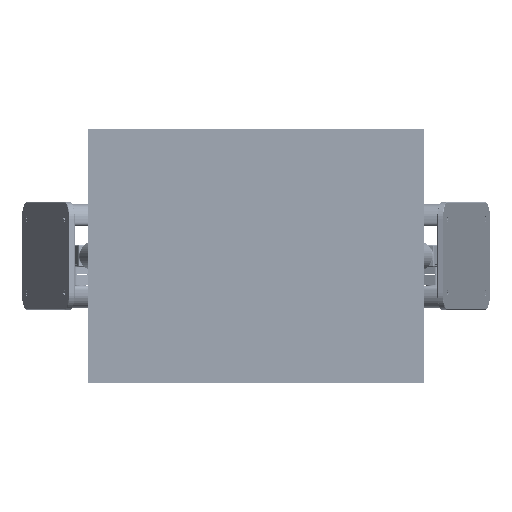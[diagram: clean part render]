
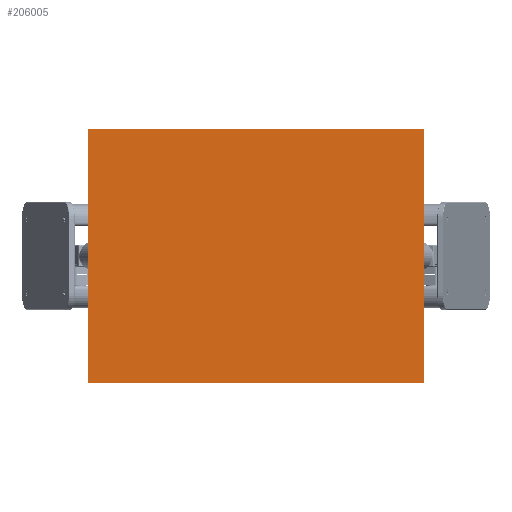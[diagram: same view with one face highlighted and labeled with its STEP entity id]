
A CAD part, left-side view. The second image highlights one B-rep face of the part: STEP entity #206005.
In plain terms, the highlighted planar face has unit normal (-1, 0, 0) as drawn and (0, 0, -1) by its records, which use the part's own axes.
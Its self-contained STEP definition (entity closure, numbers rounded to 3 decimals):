
#205878=DIRECTION('',(0.,1.,0.));
#205879=VECTOR('',#205878,340.);
#205880=CARTESIAN_POINT('',(-225.,-170.,-860.));
#205881=LINE('',#205880,#205879);
#205885=DIRECTION('',(-1.,0.,0.));
#205886=VECTOR('',#205885,450.);
#205887=CARTESIAN_POINT('',(225.,-170.,-860.));
#205888=LINE('',#205887,#205886);
#205892=DIRECTION('',(0.,1.,0.));
#205893=VECTOR('',#205892,340.);
#205894=CARTESIAN_POINT('',(225.,-170.,-860.));
#205895=LINE('',#205894,#205893);
#205899=DIRECTION('',(-1.,0.,0.));
#205900=VECTOR('',#205899,450.);
#205901=CARTESIAN_POINT('',(225.,170.,-860.));
#205902=LINE('',#205901,#205900);
#205914=CARTESIAN_POINT('',(225.,-170.,-860.));
#205915=CARTESIAN_POINT('',(-225.,-170.,-860.));
#205916=VERTEX_POINT('',#205914);
#205917=VERTEX_POINT('',#205915);
#205918=CARTESIAN_POINT('',(225.,170.,-860.));
#205919=CARTESIAN_POINT('',(-225.,170.,-860.));
#205920=VERTEX_POINT('',#205918);
#205921=VERTEX_POINT('',#205919);
#205994=CARTESIAN_POINT('',(225.,-180.,-860.));
#205995=DIRECTION('',(0.,0.,-1.));
#205996=DIRECTION('',(-1.,0.,0.));
#205997=AXIS2_PLACEMENT_3D('',#205994,#205995,#205996);
#205998=PLANE('',#205997);
#205999=ORIENTED_EDGE('',*,*,#205945,.F.);
#206000=ORIENTED_EDGE('',*,*,#205960,.T.);
#206001=ORIENTED_EDGE('',*,*,#205976,.T.);
#206002=ORIENTED_EDGE('',*,*,#205989,.F.);
#206003=EDGE_LOOP('',(#205999,#206000,#206001,#206002));
#206004=FACE_OUTER_BOUND('',#206003,.F.);
#205945=EDGE_CURVE('',#205916,#205917,#205888,.T.);
#205960=EDGE_CURVE('',#205916,#205920,#205895,.T.);
#205976=EDGE_CURVE('',#205920,#205921,#205902,.T.);
#205989=EDGE_CURVE('',#205917,#205921,#205881,.T.);
#206005=ADVANCED_FACE('',(#206004),#205998,.T.);
